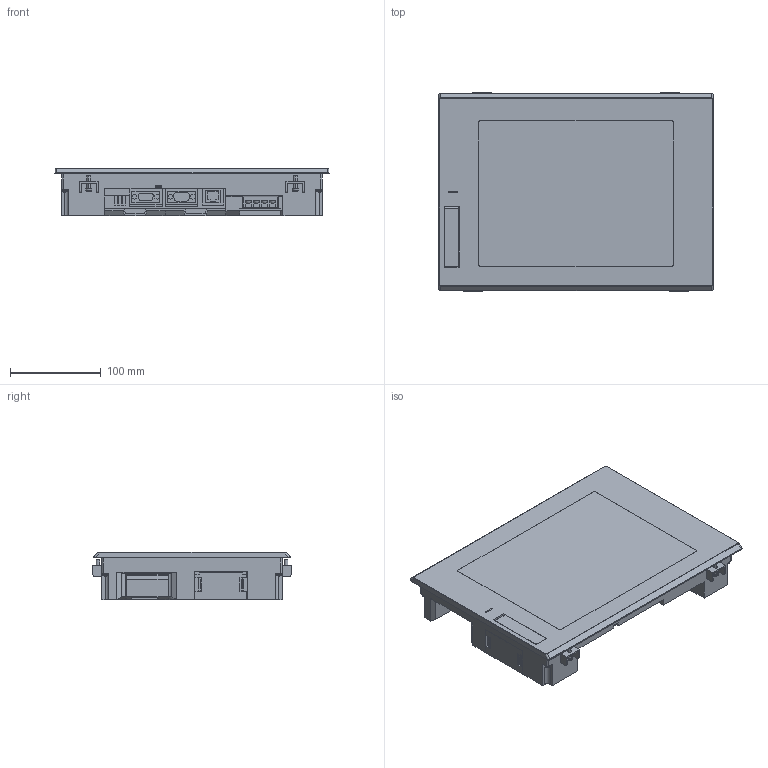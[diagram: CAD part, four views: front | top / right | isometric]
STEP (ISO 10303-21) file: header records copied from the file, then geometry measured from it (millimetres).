
FILE_DESCRIPTION((''),'2;1');
FILE_NAME('GT2710_ASM','2013-09-03T',('KW48605'),(''),'PRO/ENGINEER BY PARAMETRIC TECHNOLOGY CORPORATION, 2011490','PRO/ENGINEER BY PARAMETRIC TECHNOLOGY CORPORATION, 2011490','');
FILE_SCHEMA(('CONFIG_CONTROL_DESIGN'));
Length unit declared in the file: millimetre
Products named in the file (6): GT2710; COVER_1; COVER_2; COVER_3; TORITUKE; GT2710_ASM
Assembly tree (9 placements, depth 2):
  GT2710_ASM
    GT2710
    COVER_1  x2
    COVER_2
    COVER_3
    TORITUKE  x4
Bounding box: 303 x 219 x 52.05 mm (x, y, z)
Volume: 2586450.6 mm3; surface area: 241648.9 mm2
Topology: 9 solids, 14 shells, 729 faces, 1994 edges, 1320 vertices
Faces by surface type: plane 475, cylinder 164, cone 32, sphere 26, torus 24, bspline 8
Entity records: 21723 total; most frequent: CARTESIAN_POINT 5580, ORIENTED_EDGE 3420, DIRECTION 3198, EDGE_CURVE 1710, VECTOR 1194, LINE 1194, VERTEX_POINT 1148, AXIS2_PLACEMENT_3D 1002
